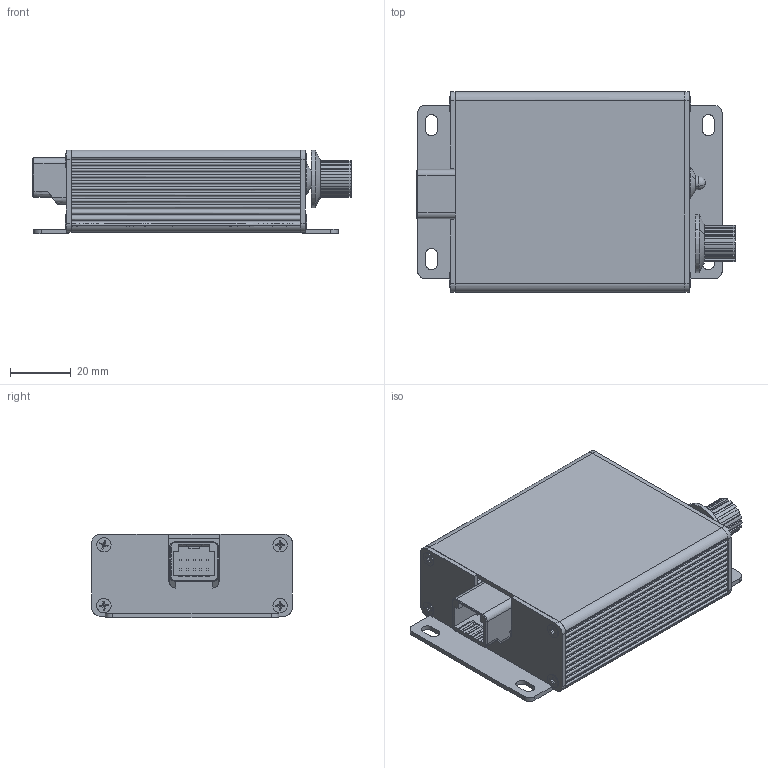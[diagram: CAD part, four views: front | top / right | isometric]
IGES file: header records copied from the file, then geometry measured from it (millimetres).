
Start section: START RECORD GO HERE.
Global section: file name: EC10_ACB.igs; native system: DASSAULT SYSTEMES CATIA Version 5-6 Release 2023 - www.3ds.com; preprocessor: V5-6R2023_5.33.5.3.12-06-2024.11.00; author: ARJ; organization: ARJ.co.ltd; date: 20260312.160419; units: millimetre
Bounding box: 104.51 x 66 x 27.5 mm (x, y, z)
Volume: 34524.2 mm3; surface area: 48912.1 mm2
Topology: 13 solids, 14 shells, 909 faces, 2489 edges, 1619 vertices
Faces by surface type: plane 640, revolution 269
